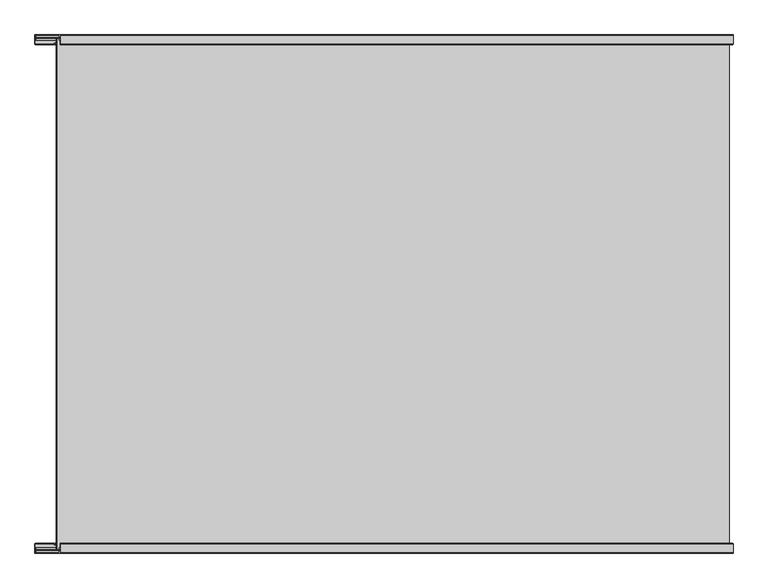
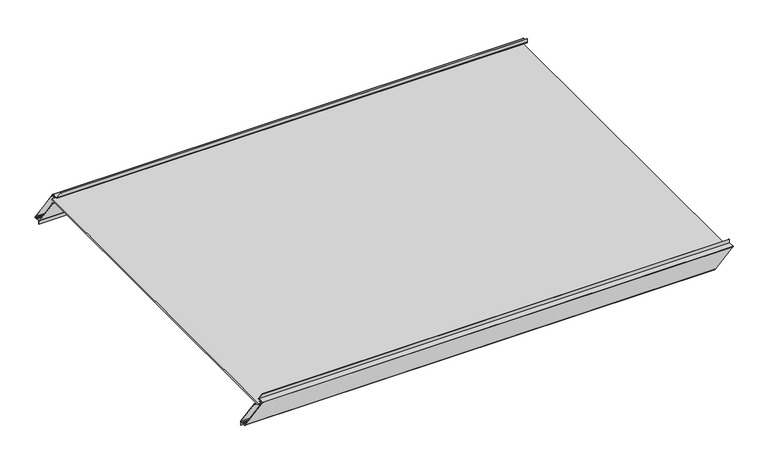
"""IFC4 building model written with IfcOpenShell, lengths in millimetres: proxy geometry, Specialy Equipment_Blindspace_Standard-Pockets-for-Roller-Blinds : 3500 mm x 2600 mm with 130 x 130 mm Box."""

from ifc_helpers import new_model, si_unit, frame, origin, place, context, project, spatial, polyline, ellipse_curve, outline, extrude, source, transform, mapped, element, save
from ifc_brep_helpers import plane_surface, cylinder_surface, advanced_brep


def specialty_equipment_ac06c7cd(model_context):
    return source(origin(), model_context, "Body", "SolidModel", [
        extrude(outline(polyline([(-25.0, 1750.0), (0.0211686, 1750.0), (0.0211686, -1594.9788314), (-25.0, -1620.0), (-25.0, 1750.0)])), frame((0.0, -1254.2337728, 0.0), z_axis=(0.0, 1.0, 0.0), x_axis=(0.0, 0.0, 1.0)), (0.0, 0.0, 1.0), 1.4818676),
        extrude(outline(polyline([(-155.0000001, -1750.0), (-180.0211687, -1750.0), (-180.0211687, 1594.9788313), (-155.0000001, 1619.9999999), (-155.0000001, -1750.0)])), frame((0.0, -1254.2337728, 0.0), z_axis=(0.0, 1.0, 0.0), x_axis=(0.0, 0.0, 1.0)), (0.0, 0.0, 1.0), 1.4818676),
        advanced_brep(
        [(-1749.9999999, -1299.25, -154.9999999), (-1749.9999999, -1252.9175768, -154.9999999), (1620.0000001, -1252.9175768, -154.9999999), (1620.0000001, -1299.25, -154.9999999), (-1747.4999999, -1250.0, -152.4999999), (1622.5000001, -1250.0, -152.4999999), (-1747.4999999, -1252.4875145, -152.4999999), (-1747.4999999, -1273.0149627, -152.4999999), (1622.5000001, -1273.0149627, -152.4999999), (1622.5000001, -1252.4875145, -152.4999999), (-1742.1999999, -1273.0149627, -147.1999999), (1627.8000001, -1273.0149627, -147.1999999), (-1742.1999999, -1279.9597598, -147.1999999), (1627.8000001, -1279.9597598, -147.1999999), (-1747.4999999, -1279.9597598, -152.4999999), (1622.5000001, -1279.9597598, -152.4999999), (-1747.4999999, -1288.0030209, -152.4999999), (1622.5000001, -1288.0030209, -152.4999999), (-1742.1999999, -1288.0030209, -147.1999999), (1627.8000001, -1288.0030209, -147.1999999), (-1742.1999999, -1294.991, -147.1999999), (1627.8000001, -1294.991, -147.1999999), (-1747.4999999, -1294.991, -152.4999999), (1622.5000001, -1294.991, -152.4999999), (-1747.4999999, -1297.5, -152.4999999), (1622.5000001, -1297.5, -152.4999999), (-1622.5, -1297.5, -27.5), (1747.5, -1297.5, -27.5), (-1622.5, -1294.991, -27.5), (1747.5, -1294.991, -27.5), (-1627.8, -1294.991, -32.8), (1742.2, -1294.991, -32.8), (-1627.8, -1288.0030209, -32.8), (1742.2, -1288.0030209, -32.8), (-1622.5, -1288.0030209, -27.5), (1747.5, -1288.0030209, -27.5), (-1622.5, -1279.9597598, -27.5), (1747.5, -1279.9597598, -27.5), (-1627.8, -1279.9597598, -32.8), (1742.2, -1279.9597598, -32.8), (-1627.8, -1273.0149627, -32.8), (1742.2, -1273.0149627, -32.8), (-1622.5, -1273.0149627, -27.5), (1747.5, -1273.0149627, -27.5), (-1622.5, -1250.0, -27.5), (1747.5, -1250.0, -27.5), (-1620.0, -1252.9175768, -25.0), (1750.0, -1252.9175768, -25.0), (-1620.0, -1299.25, -25.0), (1750.0, -1299.25, -25.0), (-1620.75, -1300.0, -25.75), (1749.25, -1300.0, -25.75), (-1749.2499999, -1300.0, -154.2499999), (1620.7500001, -1300.0, -154.2499999), (-1651.4999999, -1250.0, -56.4999999), (1718.5000001, -1250.0, -56.4999999), (-1651.4999999, -1257.4875145, -56.4999999), (1718.5000001, -1257.4875145, -56.4999999), (-1653.9999999, -1257.4875145, -58.9999999), (1716.0000001, -1257.4875145, -58.9999999), (-1653.9999999, -1252.4875145, -58.9999999), (1716.0000001, -1252.4875145, -58.9999999)],
        [
            (0, 1),
            (1, 2),
            (2, 3),
            (3, 0),
            (1, 4),
            (4, 5),
            (5, 2),
            (6, 7),
            (7, 8),
            (8, 9),
            (9, 6),
            (7, 10),
            (10, 11),
            (11, 8),
            (10, 12),
            (12, 13),
            (13, 11),
            (12, 14),
            (14, 15),
            (15, 13),
            (14, 16),
            (16, 17),
            (17, 15),
            (16, 18),
            (18, 19),
            (19, 17),
            (18, 20),
            (20, 21),
            (21, 19),
            (20, 22),
            (22, 23),
            (23, 21),
            (22, 24),
            (24, 25),
            (25, 23),
            (24, 26),
            (26, 27),
            (27, 25),
            (26, 28),
            (28, 29),
            (29, 27),
            (28, 30),
            (30, 31),
            (31, 29),
            (30, 32),
            (32, 33),
            (33, 31),
            (32, 34),
            (34, 35),
            (35, 33),
            (34, 36),
            (36, 37),
            (37, 35),
            (36, 38),
            (38, 39),
            (39, 37),
            (38, 40),
            (40, 41),
            (41, 39),
            (40, 42),
            (42, 43),
            (43, 41),
            (42, 44),
            (44, 45),
            (45, 43),
            (46, 47),
            (47, 45),
            (44, 46),
            (46, 48),
            (48, 49),
            (49, 47),
            (48, 50, ellipse_curve(frame((-1620.75, -1299.25, -25.75), z_axis=(0.7071067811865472, 0.0, -0.7071067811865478), x_axis=(-0.7071067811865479, 0.0, -0.7071067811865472)), 1.0606602, 0.75)),
            (50, 51),
            (51, 49, ellipse_curve(frame((1749.25, -1299.25, -25.75), z_axis=(-0.7071067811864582, 0.0, 0.7071067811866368), x_axis=(-0.7071067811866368, 0.0, -0.7071067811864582)), 1.0606602, 0.75)),
            (50, 52),
            (52, 53),
            (53, 51),
            (52, 0, ellipse_curve(frame((-1749.2499999, -1299.25, -154.2499999), z_axis=(0.7071067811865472, 0.0, -0.7071067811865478), x_axis=(-0.7071067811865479, 0.0, -0.7071067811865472)), 1.0606602, 0.75)),
            (3, 53, ellipse_curve(frame((1620.7500001, -1299.25, -154.2499999), z_axis=(-0.7071067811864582, 0.0, 0.7071067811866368), x_axis=(-0.7071067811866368, 0.0, -0.7071067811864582)), 1.0606602, 0.75)),
            (4, 54),
            (54, 55),
            (55, 5),
            (54, 56),
            (56, 57),
            (57, 55),
            (56, 58),
            (58, 59),
            (59, 57),
            (58, 60),
            (60, 61),
            (61, 59),
            (60, 6),
            (9, 61),
        ],
        [
            plane_surface(frame((-1750.0, -1252.9175768, -154.9999999), z_axis=(0.0, 0.0, -1.0), x_axis=(1.0, 0.0, 0.0))),
            plane_surface(frame((-1750.0, -1250.0, -152.4999999), z_axis=(0.0, 0.650674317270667, -0.7593569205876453), x_axis=(1.0, 0.0, 0.0))),
            plane_surface(frame((-1750.0, -1273.0149627, -152.4999999), z_axis=(0.0, 0.0, 1.0), x_axis=(1.0, 0.0, 0.0))),
            plane_surface(frame((-1750.0, -1273.0149627, -147.1999999), z_axis=(0.0, 1.0, 0.0), x_axis=(1.0, 0.0, 0.0))),
            plane_surface(frame((-1750.0, -1279.9597598, -147.1999999), z_axis=(0.0, 0.0, 1.0), x_axis=(1.0, 0.0, 0.0))),
            plane_surface(frame((-1750.0, -1279.9597598, -152.4999999), z_axis=(0.0, -1.0, 0.0), x_axis=(1.0, 0.0, 0.0))),
            plane_surface(frame((-1750.0, -1288.0030209, -152.4999999), z_axis=(0.0, 0.0, 1.0), x_axis=(1.0, 0.0, 0.0))),
            plane_surface(frame((-1750.0, -1288.0030209, -147.1999999), z_axis=(0.0, 1.0, 0.0), x_axis=(1.0, 0.0, 0.0))),
            plane_surface(frame((-1750.0, -1294.991, -147.1999999), z_axis=(0.0, 0.0, 1.0), x_axis=(1.0, 0.0, 0.0))),
            plane_surface(frame((-1750.0, -1294.991, -152.4999999), z_axis=(0.0, -1.0, 0.0), x_axis=(1.0, 0.0, 0.0))),
            plane_surface(frame((-1750.0, -1297.5, -152.4999999), z_axis=(0.0, 0.0, 1.0), x_axis=(1.0, 0.0, 0.0))),
            plane_surface(frame((-1750.0, -1297.5, -27.5), z_axis=(0.0, 1.0, 0.0), x_axis=(1.0, 0.0, 0.0))),
            plane_surface(frame((-1750.0, -1294.991, -27.5), z_axis=(0.0, 0.0, -1.0), x_axis=(1.0, 0.0, 0.0))),
            plane_surface(frame((-1750.0, -1294.991, -32.8), z_axis=(0.0, -1.0, 0.0), x_axis=(1.0, 0.0, 0.0))),
            plane_surface(frame((-1750.0, -1288.0030209, -32.8), z_axis=(0.0, 0.0, -1.0), x_axis=(1.0, 0.0, 0.0))),
            plane_surface(frame((-1750.0, -1288.0030209, -27.5), z_axis=(0.0, 1.0, 0.0), x_axis=(1.0, 0.0, 0.0))),
            plane_surface(frame((-1750.0, -1279.9597598, -27.5), z_axis=(0.0, 0.0, -1.0), x_axis=(1.0, 0.0, 0.0))),
            plane_surface(frame((-1750.0, -1279.9597598, -32.8), z_axis=(0.0, -1.0, 0.0), x_axis=(1.0, 0.0, 0.0))),
            plane_surface(frame((-1750.0, -1273.0149627, -32.8), z_axis=(0.0, 0.0, -1.0), x_axis=(1.0, 0.0, 0.0))),
            plane_surface(frame((-1750.0, -1273.0149627, -27.5), z_axis=(0.0, 1.0, 0.0), x_axis=(1.0, 0.0, 0.0))),
            plane_surface(frame((-1750.0, -1250.0, -27.5), z_axis=(0.0, 0.0, -1.0), x_axis=(1.0, 0.0, 0.0))),
            plane_surface(frame((-1750.0, -1252.9175768, -25.0), z_axis=(0.0, 0.6506743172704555, 0.7593569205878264), x_axis=(1.0, 0.0, 0.0))),
            plane_surface(frame((-1750.0, -1299.25, -25.0), z_axis=(0.0, 0.0, 1.0), x_axis=(1.0, 0.0, 0.0))),
            cylinder_surface(frame((-1750.0, -1299.25, -25.75), z_axis=(-1.0, 0.0, 0.0), x_axis=(0.0, 1.0, 0.0)), 0.75),
            plane_surface(frame((-1750.0, -1300.0, -154.2499999), z_axis=(0.0, -1.0, 0.0), x_axis=(1.0, 0.0, 0.0))),
            cylinder_surface(frame((-1750.0, -1299.25, -154.2499999), z_axis=(-1.0, 0.0, 0.0), x_axis=(0.0, 1.0, 0.0)), 0.75),
            plane_surface(frame((-1750.0, -1250.0, -56.4999999), z_axis=(0.0, 1.0, 0.0), x_axis=(1.0, 0.0, 0.0))),
            plane_surface(frame((-1750.0, -1257.4875145, -56.4999999), z_axis=(0.0, 0.0, 1.0), x_axis=(1.0, 0.0, 0.0))),
            plane_surface(frame((-1750.0, -1257.4875145, -58.9999999), z_axis=(0.0, -1.0, 0.0), x_axis=(1.0, 0.0, 0.0))),
            plane_surface(frame((-1750.0, -1252.4875145, -58.9999999), z_axis=(0.0, 0.0, -1.0), x_axis=(1.0, 0.0, 0.0))),
            plane_surface(frame((-1750.0, -1252.4875145, -152.4999999), z_axis=(0.0, -1.0, 0.0), x_axis=(1.0, 0.0, 0.0))),
            plane_surface(frame((-1760.0, -1300.0, -165.0), z_axis=(-0.7071067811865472, 0.0, 0.7071067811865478), x_axis=(0.0, 1.0, 0.0))),
            plane_surface(frame((1760.0, -1300.0, -15.0), z_axis=(0.7071067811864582, 0.0, -0.7071067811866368), x_axis=(0.0, 1.0, 0.0))),
        ],
        [
            (0, [[1, 2, 3, 4]]),
            (1, [[5, 6, 7, -2]]),
            (2, [[8, 9, 10, 11]]),
            (3, [[12, 13, 14, -9]]),
            (4, [[15, 16, 17, -13]]),
            (5, [[18, 19, 20, -16]]),
            (6, [[21, 22, 23, -19]]),
            (7, [[24, 25, 26, -22]]),
            (8, [[27, 28, 29, -25]]),
            (9, [[30, 31, 32, -28]]),
            (10, [[33, 34, 35, -31]]),
            (11, [[36, 37, 38, -34]]),
            (12, [[39, 40, 41, -37]]),
            (13, [[42, 43, 44, -40]]),
            (14, [[45, 46, 47, -43]]),
            (15, [[48, 49, 50, -46]]),
            (16, [[51, 52, 53, -49]]),
            (17, [[54, 55, 56, -52]]),
            (18, [[57, 58, 59, -55]]),
            (19, [[60, 61, 62, -58]]),
            (20, [[63, 64, 65, -61]]),
            (21, [[66, 67, -64, 68]]),
            (22, [[-66, 69, 70, 71]]),
            (23, [[-70, 72, 73, 74]]),
            (24, [[75, 76, 77, -73]]),
            (25, [[78, -4, 79, -76]]),
            (26, [[80, 81, 82, -6]]),
            (27, [[83, 84, 85, -81]]),
            (28, [[86, 87, 88, -84]]),
            (29, [[89, 90, 91, -87]]),
            (30, [[92, -11, 93, -90]]),
            (31, [[-1, -78, -75, -72, -69, -68, -63, -60, -57, -54, -51, -48, -45, -42, -39, -36, -33, -30, -27, -24, -21, -18, -15, -12, -8, -92, -89, -86, -83, -80, -5]]),
            (32, [[-3, -7, -82, -85, -88, -91, -93, -10, -14, -17, -20, -23, -26, -29, -32, -35, -38, -41, -44, -47, -50, -53, -56, -59, -62, -65, -67, -71, -74, -77, -79]]),
        ],
    ),
        extrude(outline(polyline([(-25.0, 1750.0337728), (0.0211686, 1750.0337728), (0.0211686, -1594.9788314), (-25.0, -1620.0), (-25.0, 1750.0337728)])), frame((0.0, 1252.7519052, 0.0), z_axis=(0.0, 1.0, 0.0), x_axis=(0.0, 0.0, 1.0)), (0.0, 0.0, 1.0), 1.4818676),
        extrude(outline(polyline([(-155.0000001, -1750.0337728), (-180.0211687, -1750.0337728), (-180.0211687, 1594.9788313), (-155.0000001, 1619.9999999), (-155.0000001, -1750.0337728)])), frame((0.0, 1252.7519052, 0.0), z_axis=(0.0, 1.0, 0.0), x_axis=(0.0, 0.0, 1.0)), (0.0, 0.0, 1.0), 1.4818676),
        advanced_brep(
        [(-1749.9999999, 1252.9175768, -154.9999999), (-1749.9999999, 1299.25, -154.9999999), (1620.0000001, 1299.25, -154.9999999), (1620.0000001, 1252.9175768, -154.9999999), (-1747.4999999, 1250.0, -152.4999999), (1622.5000001, 1250.0, -152.4999999), (-1747.4999999, 1273.0149627, -152.4999999), (-1747.4999999, 1252.4875145, -152.4999999), (1622.5000001, 1252.4875145, -152.4999999), (1622.5000001, 1273.0149627, -152.4999999), (-1742.1999999, 1273.0149627, -147.1999999), (1627.8000001, 1273.0149627, -147.1999999), (-1742.1999999, 1279.9597598, -147.1999999), (1627.8000001, 1279.9597598, -147.1999999), (-1747.4999999, 1279.9597598, -152.4999999), (1622.5000001, 1279.9597598, -152.4999999), (-1747.4999999, 1288.0030209, -152.4999999), (1622.5000001, 1288.0030209, -152.4999999), (-1742.1999999, 1288.0030209, -147.1999999), (1627.8000001, 1288.0030209, -147.1999999), (-1742.1999999, 1294.991, -147.1999999), (1627.8000001, 1294.991, -147.1999999), (-1747.4999999, 1294.991, -152.4999999), (1622.5000001, 1294.991, -152.4999999), (-1747.4999999, 1297.5, -152.4999999), (1622.5000001, 1297.5, -152.4999999), (-1622.5, 1297.5, -27.5), (1747.5, 1297.5, -27.5), (-1622.5, 1294.991, -27.5), (1747.5, 1294.991, -27.5), (-1627.8, 1294.991, -32.8), (1742.2, 1294.991, -32.8), (-1627.8, 1288.0030209, -32.8), (1742.2, 1288.0030209, -32.8), (-1622.5, 1288.0030209, -27.5), (1747.5, 1288.0030209, -27.5), (-1622.5, 1279.9597598, -27.5), (1747.5, 1279.9597598, -27.5), (-1627.8, 1279.9597598, -32.8), (1742.2, 1279.9597598, -32.8), (-1627.8, 1273.0149627, -32.8), (1742.2, 1273.0149627, -32.8), (-1622.5, 1273.0149627, -27.5), (1747.5, 1273.0149627, -27.5), (-1622.5, 1250.0, -27.5), (1747.5, 1250.0, -27.5), (1750.0, 1252.9175768, -25.0), (-1620.0, 1252.9175768, -25.0), (1750.0, 1299.25, -25.0), (-1620.0, 1299.25, -25.0), (1749.25, 1300.0, -25.75), (-1620.75, 1300.0, -25.75), (-1749.2499999, 1300.0, -154.2499999), (1620.7500001, 1300.0, -154.2499999), (-1651.4999999, 1250.0, -56.4999999), (1718.5000001, 1250.0, -56.4999999), (-1651.4999999, 1257.4875145, -56.4999999), (1718.5000001, 1257.4875145, -56.4999999), (-1653.9999999, 1257.4875145, -58.9999999), (1716.0000001, 1257.4875145, -58.9999999), (-1653.9999999, 1252.4875145, -58.9999999), (1716.0000001, 1252.4875145, -58.9999999)],
        [
            (0, 1),
            (1, 2),
            (2, 3),
            (3, 0),
            (4, 0),
            (3, 5),
            (5, 4),
            (6, 7),
            (7, 8),
            (8, 9),
            (9, 6),
            (10, 6),
            (9, 11),
            (11, 10),
            (12, 10),
            (11, 13),
            (13, 12),
            (14, 12),
            (13, 15),
            (15, 14),
            (16, 14),
            (15, 17),
            (17, 16),
            (18, 16),
            (17, 19),
            (19, 18),
            (20, 18),
            (19, 21),
            (21, 20),
            (22, 20),
            (21, 23),
            (23, 22),
            (24, 22),
            (23, 25),
            (25, 24),
            (26, 24),
            (25, 27),
            (27, 26),
            (28, 26),
            (27, 29),
            (29, 28),
            (30, 28),
            (29, 31),
            (31, 30),
            (32, 30),
            (31, 33),
            (33, 32),
            (34, 32),
            (33, 35),
            (35, 34),
            (36, 34),
            (35, 37),
            (37, 36),
            (38, 36),
            (37, 39),
            (39, 38),
            (40, 38),
            (39, 41),
            (41, 40),
            (42, 40),
            (41, 43),
            (43, 42),
            (44, 42),
            (43, 45),
            (45, 44),
            (46, 47),
            (47, 44),
            (45, 46),
            (46, 48),
            (48, 49),
            (49, 47),
            (48, 50, ellipse_curve(frame((1749.25, 1299.25, -25.75), z_axis=(-0.7071067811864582, 0.0, 0.7071067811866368), x_axis=(-0.7071067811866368, 0.0, -0.7071067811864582)), 1.0606602, 0.75)),
            (50, 51),
            (51, 49, ellipse_curve(frame((-1620.75, 1299.25, -25.75), z_axis=(0.7071067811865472, 0.0, -0.7071067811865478), x_axis=(-0.7071067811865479, 0.0, -0.7071067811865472)), 1.0606602, 0.75)),
            (52, 51),
            (50, 53),
            (53, 52),
            (1, 52, ellipse_curve(frame((-1749.2499999, 1299.25, -154.2499999), z_axis=(0.7071067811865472, 0.0, -0.7071067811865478), x_axis=(-0.7071067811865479, 0.0, -0.7071067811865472)), 1.0606602, 0.75)),
            (53, 2, ellipse_curve(frame((1620.7500001, 1299.25, -154.2499999), z_axis=(-0.7071067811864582, 0.0, 0.7071067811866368), x_axis=(-0.7071067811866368, 0.0, -0.7071067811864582)), 1.0606602, 0.75)),
            (54, 4),
            (5, 55),
            (55, 54),
            (56, 54),
            (55, 57),
            (57, 56),
            (58, 56),
            (57, 59),
            (59, 58),
            (60, 58),
            (59, 61),
            (61, 60),
            (7, 60),
            (61, 8),
        ],
        [
            plane_surface(frame((-1750.0, 1299.25, -154.9999999), z_axis=(0.0, 0.0, -1.0), x_axis=(1.0, 0.0, 0.0))),
            plane_surface(frame((-1750.0, 1252.9175768, -154.9999999), z_axis=(0.0, -0.6506743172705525, -0.7593569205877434), x_axis=(1.0, 0.0, 0.0))),
            plane_surface(frame((-1750.0, 1252.4875145, -152.4999999), z_axis=(0.0, 0.0, 1.0), x_axis=(1.0, 0.0, 0.0))),
            plane_surface(frame((-1750.0, 1273.0149627, -152.4999999), z_axis=(0.0, -1.0, 0.0), x_axis=(1.0, 0.0, 0.0))),
            plane_surface(frame((-1750.0, 1273.0149627, -147.1999999), z_axis=(0.0, 0.0, 1.0), x_axis=(1.0, 0.0, 0.0))),
            plane_surface(frame((-1750.0, 1279.9597598, -147.1999999), z_axis=(0.0, 1.0, 0.0), x_axis=(1.0, 0.0, 0.0))),
            plane_surface(frame((-1750.0, 1279.9597598, -152.4999999), z_axis=(0.0, 0.0, 1.0), x_axis=(1.0, 0.0, 0.0))),
            plane_surface(frame((-1750.0, 1288.0030209, -152.4999999), z_axis=(0.0, -1.0, 0.0), x_axis=(1.0, 0.0, 0.0))),
            plane_surface(frame((-1750.0, 1288.0030209, -147.1999999), z_axis=(0.0, 0.0, 1.0), x_axis=(1.0, 0.0, 0.0))),
            plane_surface(frame((-1750.0, 1294.991, -147.1999999), z_axis=(0.0, 1.0, 0.0), x_axis=(1.0, 0.0, 0.0))),
            plane_surface(frame((-1750.0, 1294.991, -152.4999999), z_axis=(0.0, 0.0, 1.0), x_axis=(1.0, 0.0, 0.0))),
            plane_surface(frame((-1750.0, 1297.5, -152.4999999), z_axis=(0.0, -1.0, 0.0), x_axis=(1.0, 0.0, 0.0))),
            plane_surface(frame((-1750.0, 1297.5, -27.5), z_axis=(0.0, 0.0, -1.0), x_axis=(1.0, 0.0, 0.0))),
            plane_surface(frame((-1750.0, 1294.991, -27.5), z_axis=(0.0, 1.0, 0.0), x_axis=(1.0, 0.0, 0.0))),
            plane_surface(frame((-1750.0, 1294.991, -32.8), z_axis=(0.0, 0.0, -1.0), x_axis=(1.0, 0.0, 0.0))),
            plane_surface(frame((-1750.0, 1288.0030209, -32.8), z_axis=(0.0, -1.0, 0.0), x_axis=(1.0, 0.0, 0.0))),
            plane_surface(frame((-1750.0, 1288.0030209, -27.5), z_axis=(0.0, 0.0, -1.0), x_axis=(1.0, 0.0, 0.0))),
            plane_surface(frame((-1750.0, 1279.9597598, -27.5), z_axis=(0.0, 1.0, 0.0), x_axis=(1.0, 0.0, 0.0))),
            plane_surface(frame((-1750.0, 1279.9597598, -32.8), z_axis=(0.0, 0.0, -1.0), x_axis=(1.0, 0.0, 0.0))),
            plane_surface(frame((-1750.0, 1273.0149627, -32.8), z_axis=(0.0, -1.0, 0.0), x_axis=(1.0, 0.0, 0.0))),
            plane_surface(frame((-1750.0, 1273.0149627, -27.5), z_axis=(0.0, 0.0, -1.0), x_axis=(1.0, 0.0, 0.0))),
            plane_surface(frame((-1750.0, 1250.0, -27.5), z_axis=(0.0, -0.6506743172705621, 0.7593569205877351), x_axis=(1.0, 0.0, 0.0))),
            plane_surface(frame((-1750.0, 1252.9175768, -25.0), z_axis=(0.0, 0.0, 1.0), x_axis=(1.0, 0.0, 0.0))),
            cylinder_surface(frame((-1750.0, 1299.25, -25.75), z_axis=(-1.0, 0.0, 0.0), x_axis=(0.0, 1.0, 0.0)), 0.75),
            plane_surface(frame((-1750.0, 1300.0, -25.75), z_axis=(0.0, 1.0, 0.0), x_axis=(1.0, 0.0, 0.0))),
            cylinder_surface(frame((-1750.0, 1299.25, -154.2499999), z_axis=(-1.0, 0.0, 0.0), x_axis=(0.0, 1.0, 0.0)), 0.75),
            plane_surface(frame((-1750.0, 1250.0, -152.4999999), z_axis=(0.0, -1.0, 0.0), x_axis=(1.0, 0.0, 0.0))),
            plane_surface(frame((-1750.0, 1250.0, -56.4999999), z_axis=(0.0, 0.0, 1.0), x_axis=(1.0, 0.0, 0.0))),
            plane_surface(frame((-1750.0, 1257.4875145, -56.4999999), z_axis=(0.0, 1.0, 0.0), x_axis=(1.0, 0.0, 0.0))),
            plane_surface(frame((-1750.0, 1257.4875145, -58.9999999), z_axis=(0.0, 0.0, -1.0), x_axis=(1.0, 0.0, 0.0))),
            plane_surface(frame((-1750.0, 1252.4875145, -58.9999999), z_axis=(0.0, 1.0, 0.0), x_axis=(1.0, 0.0, 0.0))),
            plane_surface(frame((-1760.0, -1300.0, -165.0), z_axis=(-0.7071067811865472, 0.0, 0.7071067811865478), x_axis=(0.0, 1.0, 0.0))),
            plane_surface(frame((1760.0, -1300.0, -15.0), z_axis=(0.7071067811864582, 0.0, -0.7071067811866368), x_axis=(0.0, 1.0, 0.0))),
        ],
        [
            (0, [[1, 2, 3, 4]]),
            (1, [[5, -4, 6, 7]]),
            (2, [[8, 9, 10, 11]]),
            (3, [[12, -11, 13, 14]]),
            (4, [[15, -14, 16, 17]]),
            (5, [[18, -17, 19, 20]]),
            (6, [[21, -20, 22, 23]]),
            (7, [[24, -23, 25, 26]]),
            (8, [[27, -26, 28, 29]]),
            (9, [[30, -29, 31, 32]]),
            (10, [[33, -32, 34, 35]]),
            (11, [[36, -35, 37, 38]]),
            (12, [[39, -38, 40, 41]]),
            (13, [[42, -41, 43, 44]]),
            (14, [[45, -44, 46, 47]]),
            (15, [[48, -47, 49, 50]]),
            (16, [[51, -50, 52, 53]]),
            (17, [[54, -53, 55, 56]]),
            (18, [[57, -56, 58, 59]]),
            (19, [[60, -59, 61, 62]]),
            (20, [[63, -62, 64, 65]]),
            (21, [[66, 67, -65, 68]]),
            (22, [[-66, 69, 70, 71]]),
            (23, [[-70, 72, 73, 74]]),
            (24, [[75, -73, 76, 77]]),
            (25, [[78, -77, 79, -2]]),
            (26, [[80, -7, 81, 82]]),
            (27, [[83, -82, 84, 85]]),
            (28, [[86, -85, 87, 88]]),
            (29, [[89, -88, 90, 91]]),
            (30, [[92, -91, 93, -9]]),
            (31, [[-1, -5, -80, -83, -86, -89, -92, -8, -12, -15, -18, -21, -24, -27, -30, -33, -36, -39, -42, -45, -48, -51, -54, -57, -60, -63, -67, -71, -74, -75, -78]]),
            (32, [[-3, -79, -76, -72, -69, -68, -64, -61, -58, -55, -52, -49, -46, -43, -40, -37, -34, -31, -28, -25, -22, -19, -16, -13, -10, -93, -90, -87, -84, -81, -6]]),
        ],
    ),
        extrude(outline(polyline([(-41.9999999, 1730.0), (-41.9999999, -1636.9999999), (-46.9999999, -1641.9999999), (-46.9999999, 1728.0000001), (-45.0, 1730.0), (-41.9999999, 1730.0)])), frame((0.0, -1280.0, 0.0), z_axis=(0.0, 1.0, 0.0), x_axis=(0.0, 0.0, 1.0)), (0.0, 0.0, 1.0), 2560.0),
    ])


if __name__ == "__main__":
    model = new_model("IFC4")
    model_context = context("Model", 3, world=origin())
    ifc_project = project(units=[si_unit("LENGTHUNIT", "METRE", prefix="MILLI")], contexts=[model_context])
    site = spatial("IfcSite", under=ifc_project)
    building = spatial("IfcBuilding", under=site)
    placement = place(None, origin())
    specialty_equipment_shape = specialty_equipment_ac06c7cd(model_context)
    element("IfcBuildingElementProxy", 1, Name="Specialy Equipment_Blindspace_Standard-Pockets-for-Roller-Blinds : 3500 mm x 2600 mm with 130 x 130 mm Box", ObjectType="Specialy Equipment_Blindspace_Standard-Pockets-for-Roller-Blinds : 3500 mm x 2600 mm with 130 x 130 mm Box", at=placement, inside=building, context=model_context, shape_type="MappedRepresentation", body=[
        mapped(specialty_equipment_shape, transform((0.0, 0.0, 0.0), x_axis=(1.0, 0.0, 0.0), y_axis=(0.0, 1.0, 0.0), z_axis=(0.0, 0.0, 1.0))),
    ])
    save(model, "model.ifc")
